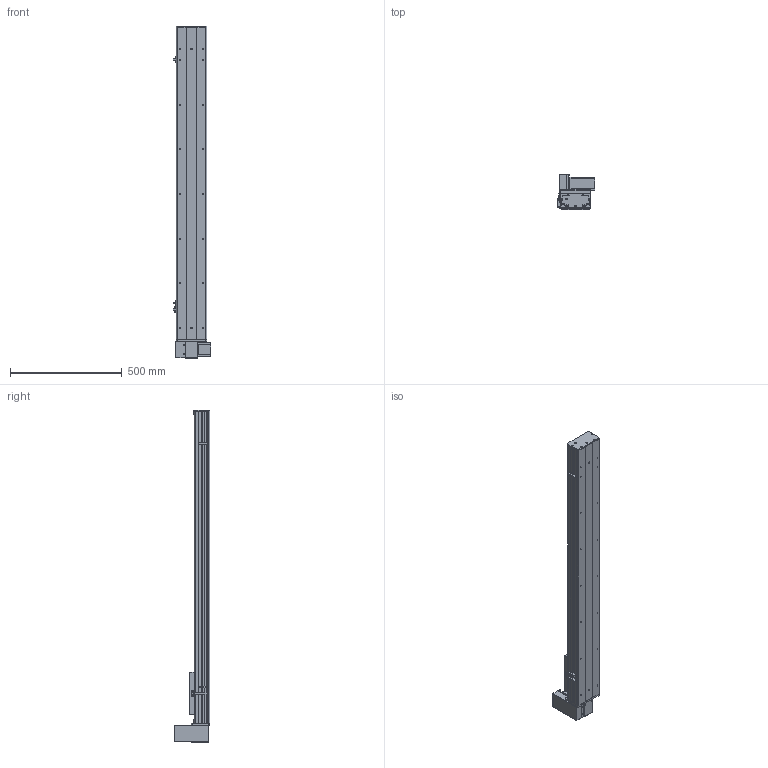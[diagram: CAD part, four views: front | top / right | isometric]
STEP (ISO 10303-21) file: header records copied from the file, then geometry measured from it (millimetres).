
FILE_DESCRIPTION (( 'STEP AP203' ), '1' );
FILE_NAME ('Y135CB-D90-S1100-UR-P400W.STEP', '2020-02-18T04:07:03', ( '微软用户' ), ( '微软中国' ), 'SwSTEP 2.0', 'SolidWorks 2017', '' );
FILE_SCHEMA (( 'CONFIG_CONTROL_DESIGN' ));
Length unit declared in the file: millimetre
Products named in the file (18): Y135CB-D90-S1100-UR-P400W; 135CB--詩湍-CE; 135CB---遴掛极.-; Y100-135俋离換覜ん--; 35CB---喘謫眊楊擘啣; Y135C-陔俋离換覜結え-; 0B-埴倛裔啣; 5C--俋欶; 0B-源倛裔啣; C-雄赽釱--; 0B-萇儂楊擘啣; Y10B--々湍喘謫眊--666; san松下电机400不带刹车----; Y10B-耜蚾蟀諉啣----; 5CB --掛极耜裔啣-; 00B-俋欶BM--; C-詩湍揤踡え-陔; Y135CB-耜裔
Assembly tree (21 placements, depth 2):
  Y135CB-D90-S1100-UR-P400W
    Y135CB-耜裔
    135CB---遴掛极.-
    35CB---喘謫眊楊擘啣
    0B-埴倛裔啣
    0B-源倛裔啣
    0B-萇儂楊擘啣
    san松下电机400不带刹车----
    5CB --掛极耜裔啣-  x2
    C-詩湍揤踡え-陔  x2
    135CB--詩湍-CE
    Y100-135俋离換覜ん--  x3
    Y135C-陔俋离換覜結え-
    5C--俋欶
    C-雄赽釱--
    Y10B--々湍喘謫眊--666
    Y10B-耜蚾蟀諉啣----
    00B-俋欶BM--
Bounding box: 167.5 x 158.7 x 1488 mm (x, y, z)
Volume: 4646029.9 mm3; surface area: 1820524 mm2
Topology: 21 solids, 21 shells, 949 faces, 2545 edges, 1686 vertices
Faces by surface type: cylinder 477, plane 456, cone 16
Entity records: 29551 total; most frequent: DIRECTION 4909, CARTESIAN_POINT 4856, ORIENTED_EDGE 4566, EDGE_CURVE 2283, AXIS2_PLACEMENT_3D 1791, VERTEX_POINT 1514, LINE 1327, VECTOR 1327
